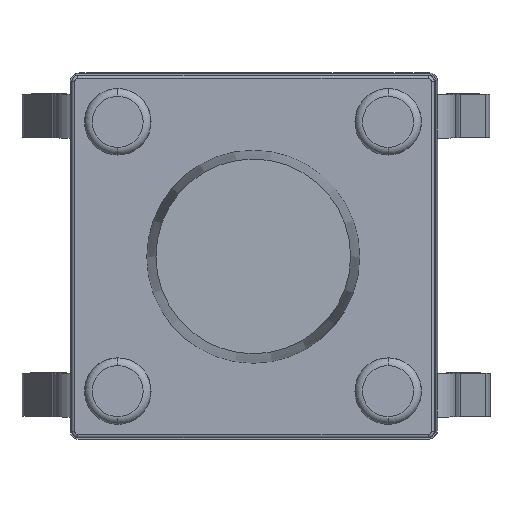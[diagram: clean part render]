
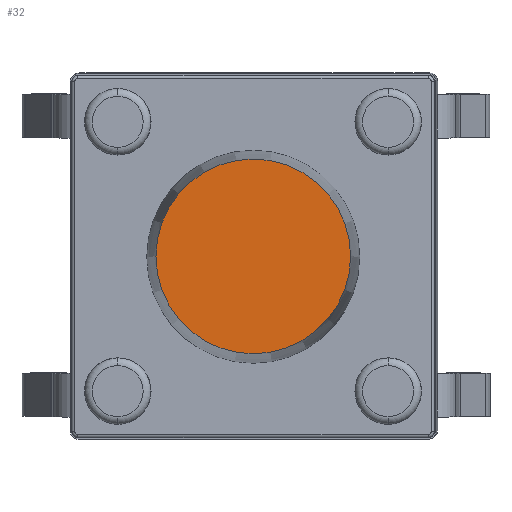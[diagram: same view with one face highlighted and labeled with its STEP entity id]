
A CAD part, top view. The second image highlights one B-rep face of the part: STEP entity #32.
In plain terms, the highlighted planar face has unit normal (0, 0, 1).
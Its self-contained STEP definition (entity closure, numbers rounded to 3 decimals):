
#32 = ADVANCED_FACE('',(#33),#46,.T.);
#33 = FACE_BOUND('',#34,.T.);
#34 = EDGE_LOOP('',(#35));
#35 = ORIENTED_EDGE('',*,*,#36,.T.);
#36 = EDGE_CURVE('',#37,#37,#39,.T.);
#37 = VERTEX_POINT('',#38);
#38 = CARTESIAN_POINT('',(-4.425,-0.033,6.95));
#39 = SURFACE_CURVE('',#40,(#45,#57),.PCURVE_S1.);
#40 = CIRCLE('',#41,1.6);
#41 = AXIS2_PLACEMENT_3D('',#42,#43,#44);
#42 = CARTESIAN_POINT('',(-6.025,-0.033,6.95));
#43 = DIRECTION('',(0.,0.,1.));
#44 = DIRECTION('',(1.,0.,0.));
#45 = PCURVE('',#46,#51);
#46 = PLANE('',#47);
#47 = AXIS2_PLACEMENT_3D('',#48,#49,#50);
#48 = CARTESIAN_POINT('',(-6.025,-0.033,6.95));
#49 = DIRECTION('',(0.,0.,1.));
#50 = DIRECTION('',(1.,0.,0.));
#51 = DEFINITIONAL_REPRESENTATION('',(#52),#56);
#52 = CIRCLE('',#53,1.6);
#53 = AXIS2_PLACEMENT_2D('',#54,#55);
#54 = CARTESIAN_POINT('',(0.,0.));
#55 = DIRECTION('',(1.,0.));
#56 = ( GEOMETRIC_REPRESENTATION_CONTEXT(2) 
PARAMETRIC_REPRESENTATION_CONTEXT() REPRESENTATION_CONTEXT('2D SPACE',''
  ) );
#57 = PCURVE('',#58,#63);
#58 = CONICAL_SURFACE('',#59,1.6,0.045);
#59 = AXIS2_PLACEMENT_3D('',#60,#61,#62);
#60 = CARTESIAN_POINT('',(-6.025,-0.033,6.95));
#61 = DIRECTION('',(-0.,-0.,-1.));
#62 = DIRECTION('',(1.,0.,0.));
#63 = DEFINITIONAL_REPRESENTATION('',(#64),#68);
#64 = LINE('',#65,#66);
#65 = CARTESIAN_POINT('',(-0.,0.));
#66 = VECTOR('',#67,1.);
#67 = DIRECTION('',(-1.,0.));
#68 = ( GEOMETRIC_REPRESENTATION_CONTEXT(2) 
PARAMETRIC_REPRESENTATION_CONTEXT() REPRESENTATION_CONTEXT('2D SPACE',''
  ) );
